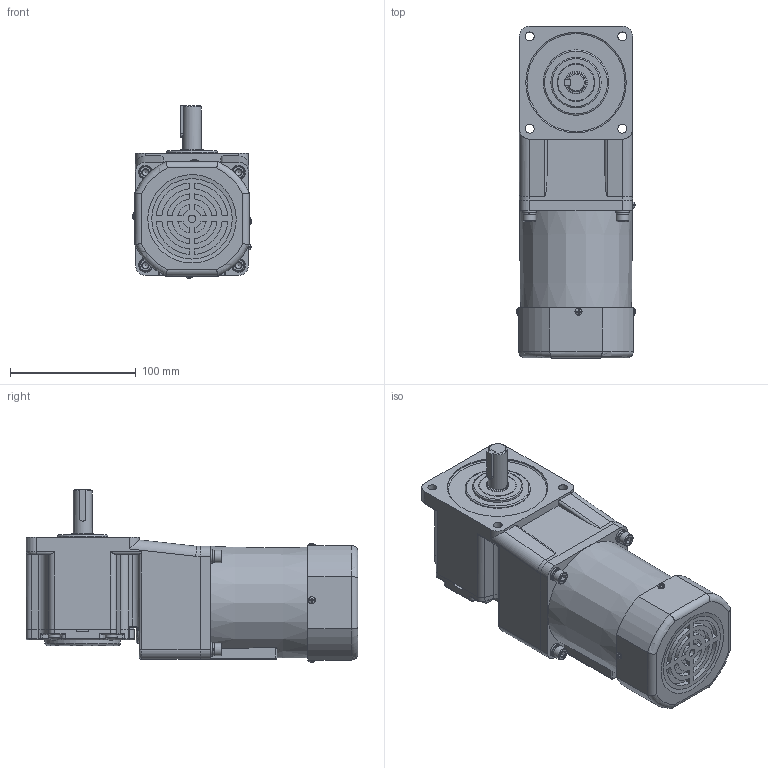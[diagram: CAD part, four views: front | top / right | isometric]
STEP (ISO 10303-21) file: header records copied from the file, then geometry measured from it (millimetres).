
FILE_DESCRIPTION(/* description */ (''),/* implementation_level */ '2;1');
FILE_NAME(/* name */ '90+中实直角-风叶-60W.stp',/* time_stamp */ '2022-11-01T13:30:45+08:00',/* author */ (''),/* organization */ (''),/* preprocessor_version */ 'ST-DEVELOPER v16.7',/* originating_system */ 'SIEMENS PLM Software NX 1899',/* authorisation */ '');
FILE_SCHEMA (('AP203_CONFIGURATION_CONTROLLED_3D_DESIGN_OF_MECHANICAL_PARTS_AND_ASSEMBLIES_MIM_LF { 1 0 10303 403 2 1 2}'));
Length unit declared in the file: millimetre
Products named in the file (1): yf1854BC0762njze
Bounding box: 94.66 x 264 x 137.33 mm (x, y, z)
Volume: 1830849.7 mm3; surface area: 152138.3 mm2
Topology: 19 solids, 19 shells, 712 faces, 1662 edges, 1017 vertices
Faces by surface type: plane 367, cylinder 225, torus 59, cone 45, sphere 12, bspline 4
Full cylindrical faces by diameter (mm): 5 x4, 5.5 x4, 5.6 x4, 5.795 x4, 6 x1, 6.4 x4, 7 x8, 9.5 x4, 10 x4, 11 x4, 15 x1, 18 x1, 30 x1, 40 x1, 52 x1, 60 x1, 67 x1, 76 x1, 80 x1, 86 x2
Entity records: 21366 total; most frequent: CARTESIAN_POINT 4221, DIRECTION 3424, ORIENTED_EDGE 3036, EDGE_CURVE 1518, AXIS2_PLACEMENT_3D 1336, VERTEX_POINT 982, EDGE_LOOP 872, LINE 752
